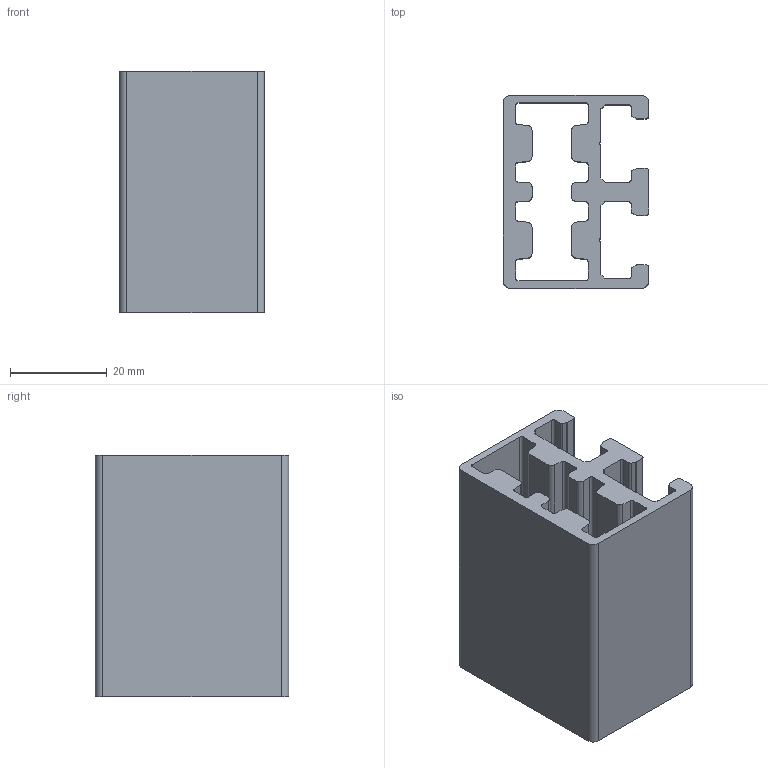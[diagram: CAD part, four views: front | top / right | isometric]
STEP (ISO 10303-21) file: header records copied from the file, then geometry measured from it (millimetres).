
FILE_DESCRIPTION(('STEP AP214'),'1');
FILE_NAME('F43W-.stp','2017-07-14T07:52:51',(' '),(' '),'Spatial InterOp 3D',' ',' ');
FILE_SCHEMA(('automotive_design'));
Length unit declared in the file: millimetre
Products named in the file (1): F43W-
Bounding box: 30 x 40 x 50 mm (x, y, z)
Volume: 24869.7 mm3; surface area: 17418.4 mm2
Topology: 1 solids, 1 shells, 126 faces, 372 edges, 248 vertices
Faces by surface type: plane 64, cylinder 62
Entity records: 5268 total; most frequent: DIRECTION 750, CARTESIAN_POINT 747, ORIENTED_EDGE 744, EDGE_CURVE 372, AXIS2_PLACEMENT_3D 251, VERTEX_POINT 248, LINE 248, VECTOR 248
